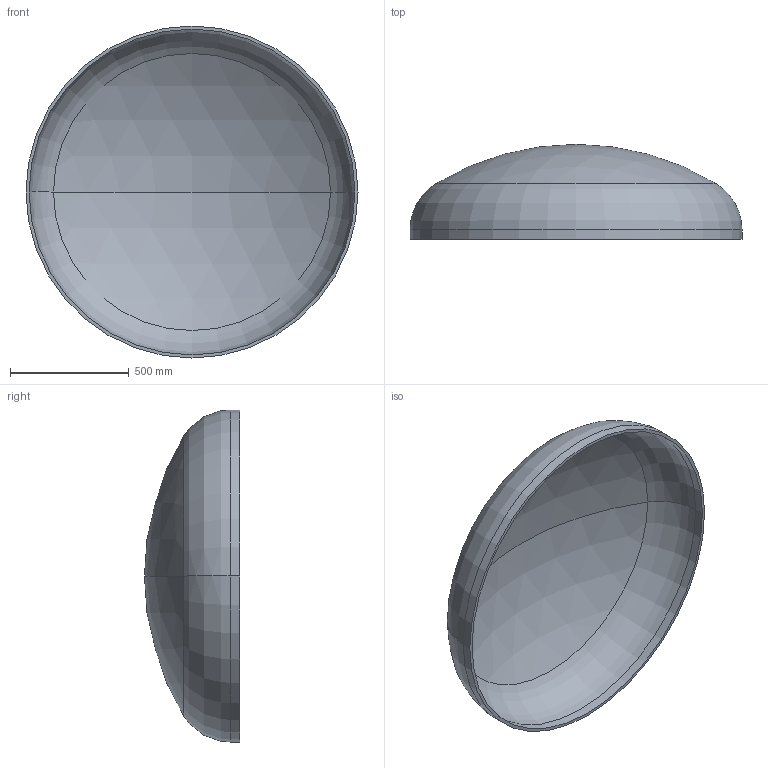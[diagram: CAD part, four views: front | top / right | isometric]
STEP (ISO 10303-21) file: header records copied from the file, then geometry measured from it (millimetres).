
FILE_DESCRIPTION (( 'STEP AP203' ), '1' );
FILE_NAME ('DIN 28013 Korbbogenform_-_Boden DIN 28013 - 1400 x 40 - I - s=13.step', '2016-07-01T10:08:18', ( '' ), ( '' ), 'SwSTEP 2.0', 'SolidWorks 2013', '' );
FILE_SCHEMA (( 'CONFIG_CONTROL_DESIGN' ));
Length unit declared in the file: millimetre
Products named in the file (1): DIN 28013 Korbbogenform_-_Boden DIN 28013 - 1400 x 40 - I - s=13
Bounding box: 1400 x 400.83 x 1400 mm (x, y, z)
Volume: 29628934.3 mm3; surface area: 4615295.9 mm2
Topology: 1 solids, 1 shells, 13 faces, 24 edges, 14 vertices
Faces by surface type: torus 4, cylinder 4, sphere 4, plane 1
Entity records: 407 total; most frequent: DIRECTION 72, CARTESIAN_POINT 52, ORIENTED_EDGE 48, AXIS2_PLACEMENT_3D 34, EDGE_CURVE 24, CIRCLE 20, EDGE_LOOP 14, VERTEX_POINT 14
